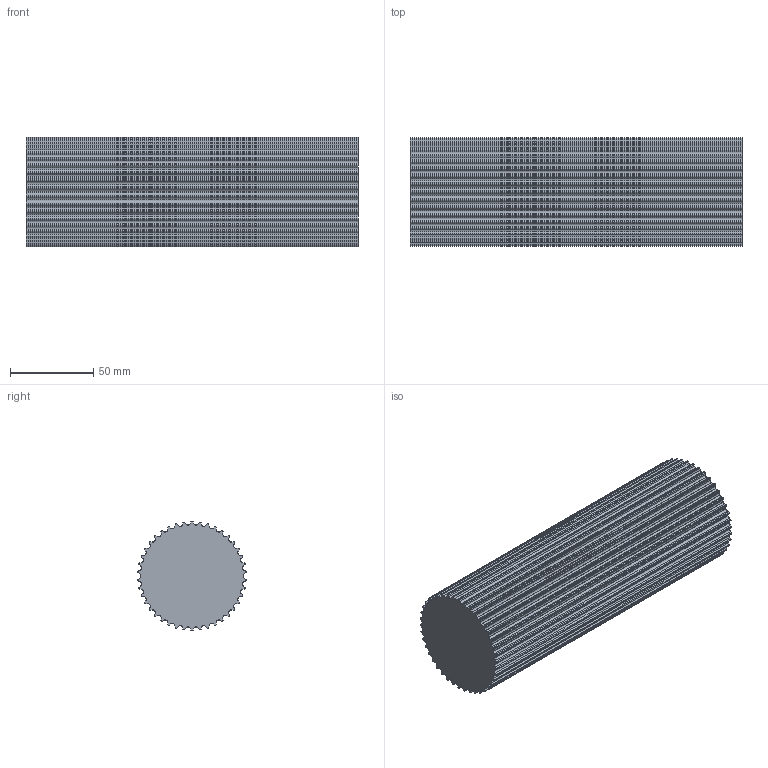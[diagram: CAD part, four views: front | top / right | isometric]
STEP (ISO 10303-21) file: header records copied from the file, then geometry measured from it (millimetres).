
FILE_DESCRIPTION( ( 'STEP AP214' ), '1' );
FILE_NAME( 'C:/Users/StangenbergN/Desktop/Steps Zahnriemenräder/K166_HTD-Zahnwellen/17294200.stp', '2019-06-06T09:42:08', ( '' ), ( '' ), ' ', 'PARTsolutions', ' ' );
FILE_SCHEMA( ( 'AUTOMOTIVE_DESIGN { 1 0 10303 214 1 1 1 1 }' ) );
Length unit declared in the file: millimetre
Products named in the file (1): _17294200
Bounding box: 200 x 65.55 x 65.71 mm (x, y, z)
Volume: 629693.2 mm3; surface area: 63852.5 mm2
Topology: 1 solids, 1 shells, 338 faces, 1008 edges, 672 vertices
Faces by surface type: cylinder 210, plane 128
Entity records: 14252 total; most frequent: DIRECTION 2106, CARTESIAN_POINT 2019, ORIENTED_EDGE 2016, EDGE_CURVE 1008, AXIS2_PLACEMENT_3D 759, VERTEX_POINT 672, LINE 588, VECTOR 588
